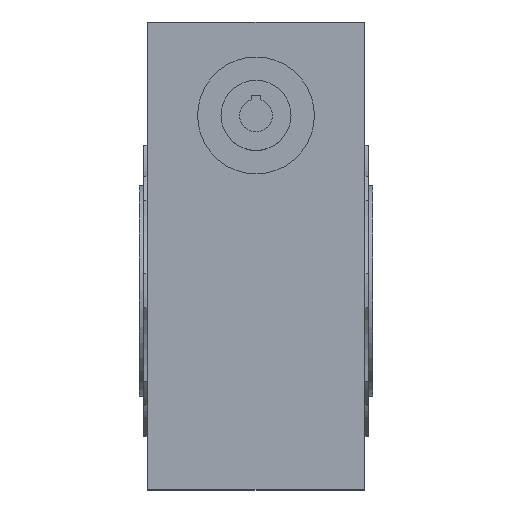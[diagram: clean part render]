
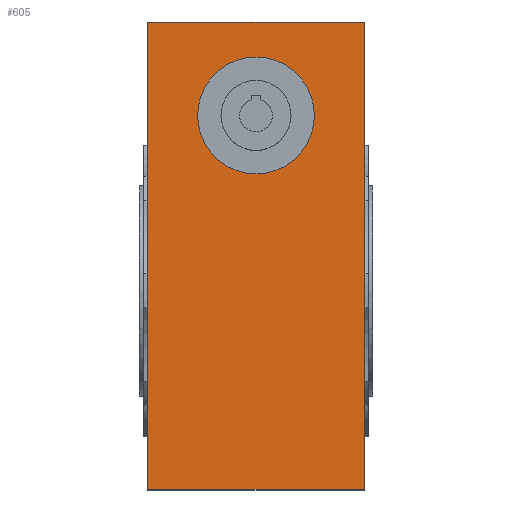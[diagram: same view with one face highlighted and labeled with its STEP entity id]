
A CAD part, top view. The second image highlights one B-rep face of the part: STEP entity #605.
In plain terms, the highlighted planar face has unit normal (0, 0, 1).
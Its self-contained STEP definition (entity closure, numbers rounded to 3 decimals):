
#605 = ADVANCED_FACE( '', ( #1336, #1337 ), #1338, .T. );
#1336 = FACE_OUTER_BOUND( '', #2105, .T. );
#1337 = FACE_BOUND( '', #2106, .T. );
#1338 = PLANE( '', #2107 );
#2105 = EDGE_LOOP( '', ( #3775, #3776, #3777, #3778 ) );
#2106 = EDGE_LOOP( '', ( #3779 ) );
#2107 = AXIS2_PLACEMENT_3D( '', #3780, #3781, #3782 );
#3775 = ORIENTED_EDGE( '', *, *, #4557, .F. );
#3776 = ORIENTED_EDGE( '', *, *, #4668, .F. );
#3777 = ORIENTED_EDGE( '', *, *, #4622, .T. );
#3778 = ORIENTED_EDGE( '', *, *, #4369, .T. );
#3779 = ORIENTED_EDGE( '', *, *, #4101, .T. );
#3780 = CARTESIAN_POINT( '', ( -92.5, 230., 170. ) );
#3781 = DIRECTION( '', ( 0., 0., 1. ) );
#3782 = DIRECTION( '', ( -1., 0., 0. ) );
#4101 = EDGE_CURVE( '', #4842, #4842, #4843, .T. );
#4369 = EDGE_CURVE( '', #5278, #5276, #5279, .T. );
#4557 = EDGE_CURVE( '', #5550, #5276, #5552, .T. );
#4622 = EDGE_CURVE( '', #5631, #5278, #5632, .T. );
#4668 = EDGE_CURVE( '', #5631, #5550, #5685, .T. );
#4842 = VERTEX_POINT( '', #5887 );
#4843 = CIRCLE( '', #5888, 50. );
#5276 = VERTEX_POINT( '', #6438 );
#5278 = VERTEX_POINT( '', #6441 );
#5279 = LINE( '', #6442, #6443 );
#5550 = VERTEX_POINT( '', #6782 );
#5552 = LINE( '', #6785, #6786 );
#5631 = VERTEX_POINT( '', #6889 );
#5632 = LINE( '', #6890, #6891 );
#5685 = LINE( '', #6958, #6959 );
#5887 = CARTESIAN_POINT( '', ( 50., 150., 170. ) );
#5888 = AXIS2_PLACEMENT_3D( '', #7137, #7138, #7139 );
#6438 = CARTESIAN_POINT( '', ( 92.5, -170., 170. ) );
#6441 = CARTESIAN_POINT( '', ( -92.5, -170., 170. ) );
#6442 = CARTESIAN_POINT( '', ( -92.5, -170., 170. ) );
#6443 = VECTOR( '', #7510, 1000. );
#6782 = CARTESIAN_POINT( '', ( 92.5, 230., 170. ) );
#6785 = CARTESIAN_POINT( '', ( 92.5, 230., 170. ) );
#6786 = VECTOR( '', #7766, 1000. );
#6889 = CARTESIAN_POINT( '', ( -92.5, 230., 170. ) );
#6890 = CARTESIAN_POINT( '', ( -92.5, 230., 170. ) );
#6891 = VECTOR( '', #7827, 1000. );
#6958 = CARTESIAN_POINT( '', ( -92.5, 230., 170. ) );
#6959 = VECTOR( '', #7878, 1000. );
#7137 = CARTESIAN_POINT( '', ( 0., 150., 170. ) );
#7138 = DIRECTION( '', ( 0., 0., -1. ) );
#7139 = DIRECTION( '', ( 1., 0., 0. ) );
#7510 = DIRECTION( '', ( 1., 0., 0. ) );
#7766 = DIRECTION( '', ( 0., -1., 0. ) );
#7827 = DIRECTION( '', ( 0., -1., 0. ) );
#7878 = DIRECTION( '', ( 1., 0., 0. ) );
